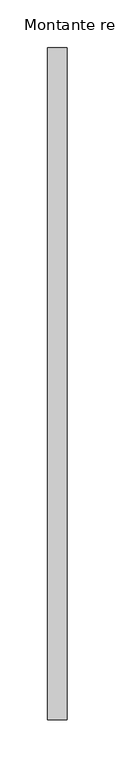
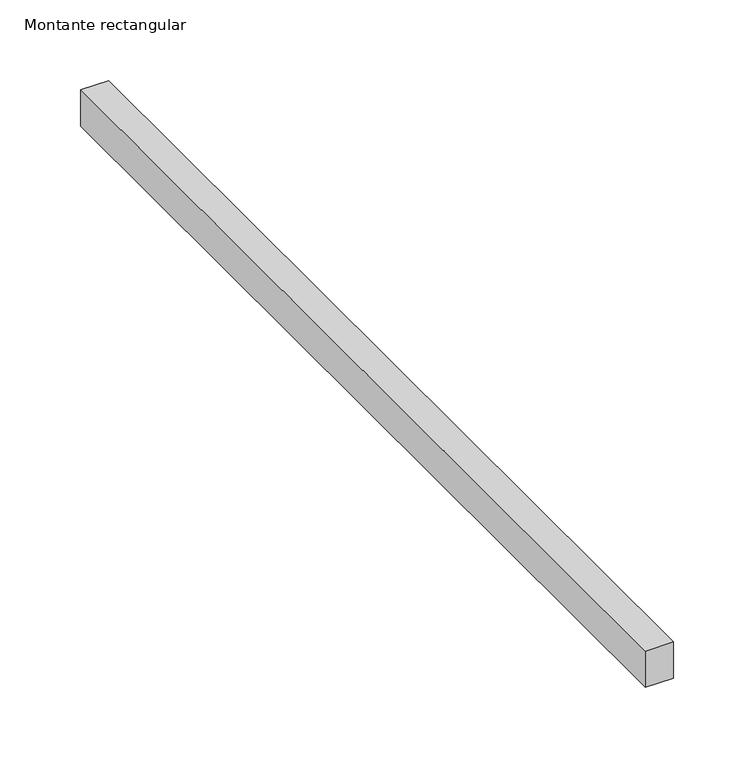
"""IFC4 building model written with IfcOpenShell, lengths in millimetres: member geometry, Montante rectangular : CIRCLES 2."""

from ifc_helpers import new_model, si_unit, frame, origin, place, context, project, spatial, polyline, outline, extrude, source, transform, mapped, element, save


def montante_rectangular_30c55d37(model_context):
    return source(origin(), model_context, "Body", "SweptSolid", [
        extrude(outline(polyline([(0.0, 350.0), (0.0, -350.0), (-20.0, -350.0), (-20.0, 350.0), (0.0, 350.0)])), frame((0.0, 0.0, -27.2580201), z_axis=(0.0, 0.0, 1.0), x_axis=(1.0, 0.0, 0.0)), (0.0, 0.0, 1.0), 27.2580201),
    ])


if __name__ == "__main__":
    model = new_model("IFC4")
    model_context = context("Model", 3, world=origin())
    ifc_project = project(units=[si_unit("LENGTHUNIT", "METRE", prefix="MILLI")], contexts=[model_context])
    site = spatial("IfcSite", under=ifc_project)
    building = spatial("IfcBuilding", under=site)
    placement = place(None, origin())
    montante_rectangular_shape = montante_rectangular_30c55d37(model_context)
    element("IfcMember", 1, ObjectType="Montante rectangular : CIRCLES 2", at=placement, inside=building, context=model_context, shape_type="MappedRepresentation", body=[
        mapped(montante_rectangular_shape, transform((0.0, 0.0, 0.0), x_axis=(1.0, 0.0, 0.0), y_axis=(0.0, 1.0, 0.0), z_axis=(0.0, 0.0, 1.0))),
    ])
    save(model, "model.ifc")
